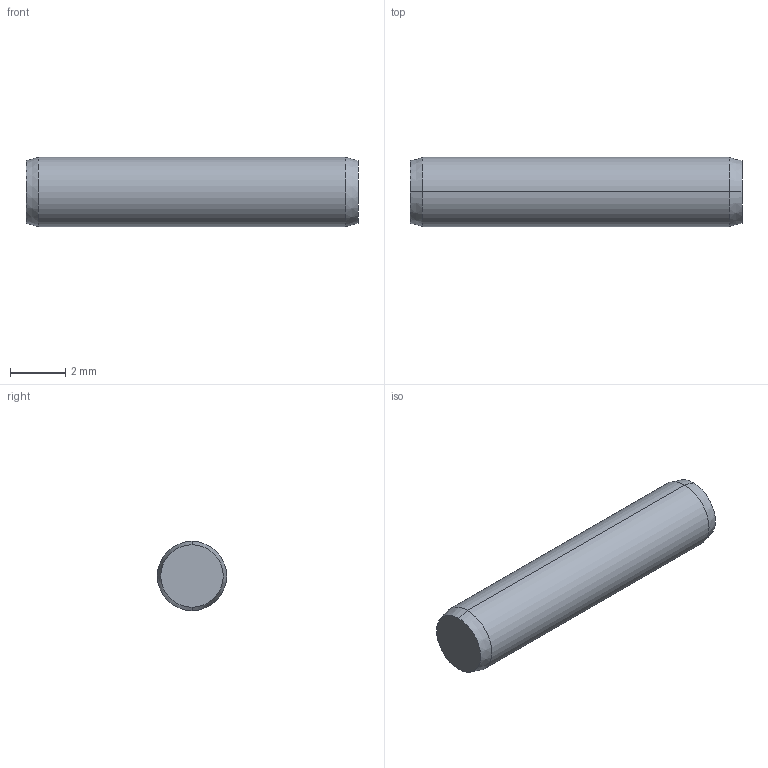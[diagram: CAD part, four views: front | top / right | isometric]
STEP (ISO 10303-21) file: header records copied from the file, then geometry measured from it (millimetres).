
FILE_DESCRIPTION (( 'STEP AP203' ), '1' );
FILE_NAME ('P1206.025-012.step', '2017-06-14T08:00:14', ( 'User' ), ( '' ), 'SwSTEP 2.0', 'SolidWorks 2009', '' );
FILE_SCHEMA (( 'CONFIG_CONTROL_DESIGN' ));
Length unit declared in the file: millimetre
Products named in the file (1): P1206.025-012
Bounding box: 12 x 2.5 x 2.5 mm (x, y, z)
Volume: 58.5 mm3; surface area: 102.2 mm2
Topology: 1 solids, 1 shells, 8 faces, 14 edges, 8 vertices
Faces by surface type: cone 4, cylinder 2, plane 2
Entity records: 271 total; most frequent: DIRECTION 40, CARTESIAN_POINT 31, ORIENTED_EDGE 28, AXIS2_PLACEMENT_3D 17, EDGE_CURVE 14, EDGE_LOOP 8, ADVANCED_FACE 8, VERTEX_POINT 8
